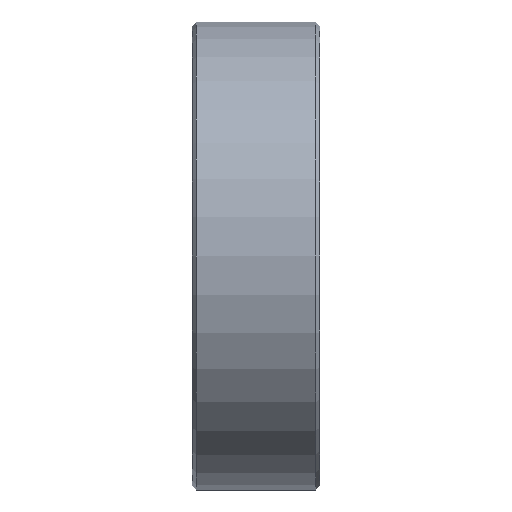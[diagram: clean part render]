
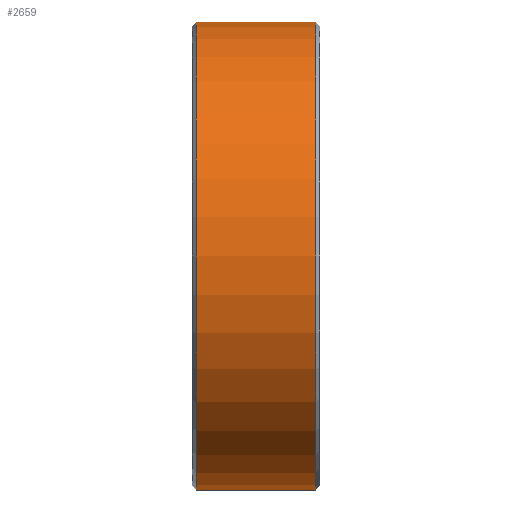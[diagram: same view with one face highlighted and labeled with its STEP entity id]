
A CAD part, front view. The second image highlights one B-rep face of the part: STEP entity #2659.
In plain terms, the highlighted cylindrical face has radius 27.5 mm (diameter 55 mm), a partial arc.
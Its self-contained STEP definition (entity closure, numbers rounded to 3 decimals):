
#1431 = CARTESIAN_POINT ( 'NONE',  ( 7., -1.5, 27.459 ) ) ;
#1454 = DIRECTION ( 'NONE',  ( -1., 0., 0. ) ) ;
#1455 = VECTOR ( 'NONE', #1454, 1000. ) ;
#1463 = CARTESIAN_POINT ( 'NONE',  ( -7., -1.5, -27.459 ) ) ;
#1474 = CARTESIAN_POINT ( 'NONE',  ( -7., -1.5, 27.459 ) ) ;
#1476 = CARTESIAN_POINT ( 'NONE',  ( 0., -1.5, 27.459 ) ) ;
#1477 = LINE ( 'NONE', #1476, #1455 ) ;
#1494 = CARTESIAN_POINT ( 'NONE',  ( 0., -1.5, -27.459 ) ) ;
#1495 = LINE ( 'NONE', #1494, #1529 ) ;
#1511 = CARTESIAN_POINT ( 'NONE',  ( 7., -1.5, -27.459 ) ) ;
#1528 = DIRECTION ( 'NONE',  ( 1., 0., 0. ) ) ;
#1529 = VECTOR ( 'NONE', #1528, 1000. ) ;
#1542 = CARTESIAN_POINT ( 'NONE',  ( 7., 0., 0. ) ) ;
#1547 = DIRECTION ( 'NONE',  ( 0., 0., 1. ) ) ;
#1548 = CIRCLE ( 'NONE', #1587, 27.5 ) ;
#1551 = DIRECTION ( 'NONE',  ( -1., 0., 0. ) ) ;
#1556 = CIRCLE ( 'NONE', #1565, 27.5 ) ;
#1559 = CYLINDRICAL_SURFACE ( 'NONE', #1564, 27.5 ) ;
#1561 = DIRECTION ( 'NONE',  ( -1., 0., 0. ) ) ;
#1562 = FACE_OUTER_BOUND ( 'NONE', #2562, .T. ) ;
#1563 = CARTESIAN_POINT ( 'NONE',  ( 0., 0., 0. ) ) ;
#1564 = AXIS2_PLACEMENT_3D ( 'NONE', #1563, #1561, #1547 ) ;
#1565 = AXIS2_PLACEMENT_3D ( 'NONE', #1542, #1551, #1589 ) ;
#1585 = DIRECTION ( 'NONE',  ( 0., 0., -1. ) ) ;
#1586 = DIRECTION ( 'NONE',  ( 1., 0., 0. ) ) ;
#1587 = AXIS2_PLACEMENT_3D ( 'NONE', #1591, #1586, #1585 ) ;
#1589 = DIRECTION ( 'NONE',  ( 0., 0., 1. ) ) ;
#1591 = CARTESIAN_POINT ( 'NONE',  ( -7., 0., 0. ) ) ;
#2562 = EDGE_LOOP ( 'NONE', ( #2615, #2656, #2629, #2654 ) ) ;
#2598 = VERTEX_POINT ( 'NONE', #1431 ) ;
#2601 = VERTEX_POINT ( 'NONE', #1463 ) ;
#2614 = VERTEX_POINT ( 'NONE', #1474 ) ;
#2615 = ORIENTED_EDGE ( 'NONE', *, *, #2632, .T. ) ;
#2617 = EDGE_CURVE ( 'NONE', #2598, #2614, #1477, .T. ) ;
#2627 = VERTEX_POINT ( 'NONE', #1511 ) ;
#2629 = ORIENTED_EDGE ( 'NONE', *, *, #2617, .T. ) ;
#2632 = EDGE_CURVE ( 'NONE', #2601, #2627, #1495, .T. ) ;
#2654 = ORIENTED_EDGE ( 'NONE', *, *, #2663, .T. ) ;
#2656 = ORIENTED_EDGE ( 'NONE', *, *, #2662, .T. ) ;
#2659 = ADVANCED_FACE ( 'NONE', ( #1562 ), #1559, .T. ) ;
#2662 = EDGE_CURVE ( 'NONE', #2627, #2598, #1556, .T. ) ;
#2663 = EDGE_CURVE ( 'NONE', #2614, #2601, #1548, .T. ) ;
